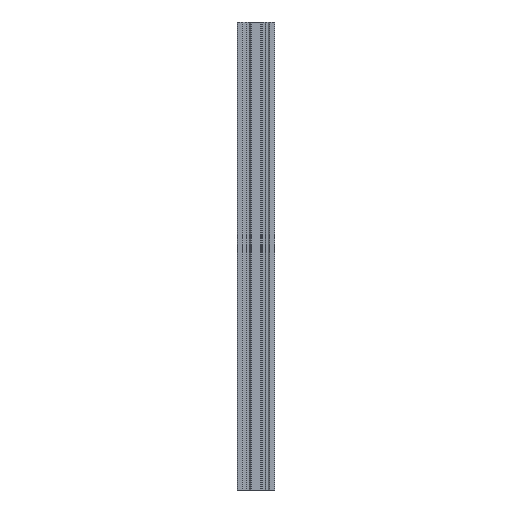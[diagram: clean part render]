
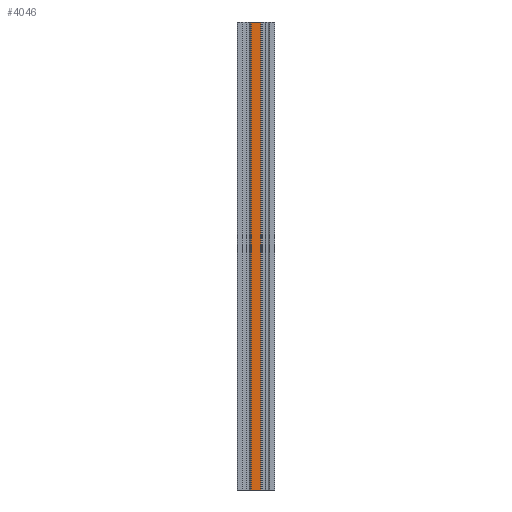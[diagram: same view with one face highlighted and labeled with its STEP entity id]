
A CAD part, left-side view. The second image highlights one B-rep face of the part: STEP entity #4046.
In plain terms, the highlighted planar face has unit normal (-1, 0, 0).
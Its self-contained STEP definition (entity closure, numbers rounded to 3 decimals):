
#26 = VECTOR ( 'NONE', #5771, 1000. ) ;
#308 = AXIS2_PLACEMENT_3D ( 'NONE', #1687, #2095, #5429 ) ;
#320 = ORIENTED_EDGE ( 'NONE', *, *, #3409, .T. ) ;
#509 = LINE ( 'NONE', #1465, #26 ) ;
#884 = VERTEX_POINT ( 'NONE', #4877 ) ;
#897 = VERTEX_POINT ( 'NONE', #2543 ) ;
#939 = ORIENTED_EDGE ( 'NONE', *, *, #5667, .F. ) ;
#1116 = DIRECTION ( 'NONE',  ( 0., 1., 0. ) ) ;
#1465 = CARTESIAN_POINT ( 'NONE',  ( -20., -5.169, 0. ) ) ;
#1687 = CARTESIAN_POINT ( 'NONE',  ( -20., 5.169, 0. ) ) ;
#1755 = LINE ( 'NONE', #5428, #3553 ) ;
#2095 = DIRECTION ( 'NONE',  ( -1., 0., 0. ) ) ;
#2543 = CARTESIAN_POINT ( 'NONE',  ( -20., 5.169, 0. ) ) ;
#2676 = EDGE_LOOP ( 'NONE', ( #939, #320, #3901, #4666 ) ) ;
#2883 = VERTEX_POINT ( 'NONE', #5133 ) ;
#2930 = EDGE_CURVE ( 'NONE', #897, #2883, #4230, .T. ) ;
#3355 = VECTOR ( 'NONE', #4231, 1000. ) ;
#3409 = EDGE_CURVE ( 'NONE', #884, #4809, #509, .T. ) ;
#3553 = VECTOR ( 'NONE', #1116, 1000. ) ;
#3901 = ORIENTED_EDGE ( 'NONE', *, *, #4825, .F. ) ;
#3986 = FACE_OUTER_BOUND ( 'NONE', #2676, .T. ) ;
#4046 = ADVANCED_FACE ( 'NONE', ( #3986 ), #5907, .T. ) ;
#4230 = LINE ( 'NONE', #6142, #5041 ) ;
#4231 = DIRECTION ( 'NONE',  ( 0., -1., 0. ) ) ;
#4664 = DIRECTION ( 'NONE',  ( 0., 0., 1. ) ) ;
#4666 = ORIENTED_EDGE ( 'NONE', *, *, #2930, .F. ) ;
#4809 = VERTEX_POINT ( 'NONE', #5963 ) ;
#4825 = EDGE_CURVE ( 'NONE', #2883, #4809, #5102, .T. ) ;
#4877 = CARTESIAN_POINT ( 'NONE',  ( -20., -5.169, 0. ) ) ;
#5041 = VECTOR ( 'NONE', #4664, 1000. ) ;
#5102 = LINE ( 'NONE', #6143, #3355 ) ;
#5133 = CARTESIAN_POINT ( 'NONE',  ( -20., 5.169, 500. ) ) ;
#5428 = CARTESIAN_POINT ( 'NONE',  ( -20., -5.169, 0. ) ) ;
#5429 = DIRECTION ( 'NONE',  ( 0., 0., 1. ) ) ;
#5667 = EDGE_CURVE ( 'NONE', #884, #897, #1755, .T. ) ;
#5771 = DIRECTION ( 'NONE',  ( 0., 0., 1. ) ) ;
#5907 = PLANE ( 'NONE',  #308 ) ;
#5963 = CARTESIAN_POINT ( 'NONE',  ( -20., -5.169, 500. ) ) ;
#6142 = CARTESIAN_POINT ( 'NONE',  ( -20., 5.169, 0. ) ) ;
#6143 = CARTESIAN_POINT ( 'NONE',  ( -20., -5.169, 500. ) ) ;
